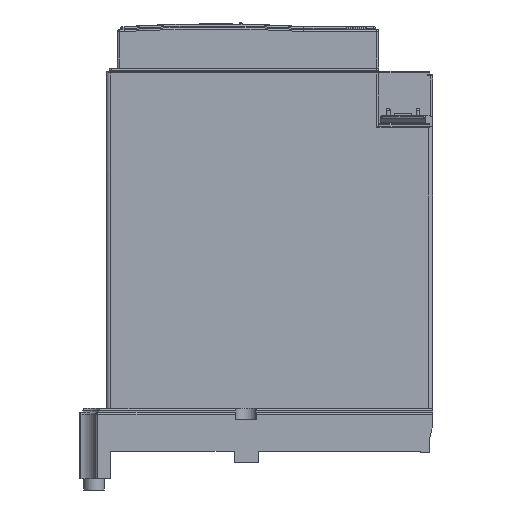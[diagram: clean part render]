
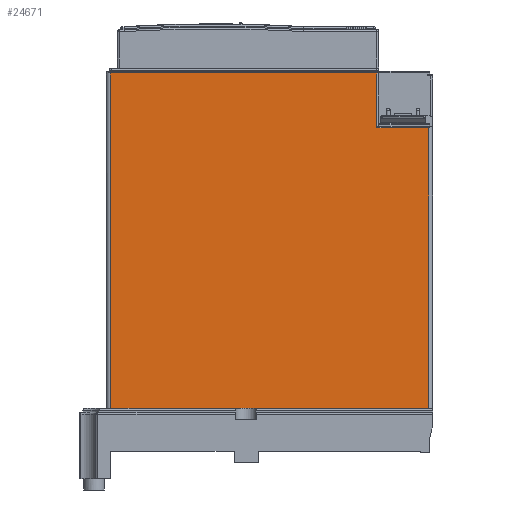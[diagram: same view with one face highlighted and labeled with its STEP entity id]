
A CAD part, left-side view. The second image highlights one B-rep face of the part: STEP entity #24671.
In plain terms, the highlighted planar face has unit normal (-1, 0, 0) as drawn and (0, 0, 1) by its records, which use the part's own axes.
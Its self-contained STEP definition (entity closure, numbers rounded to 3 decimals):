
#5814 = PLANE ( 'NONE',  #64096 ) ;
#6406 = VERTEX_POINT ( 'NONE', #95040 ) ;
#7845 = CARTESIAN_POINT ( 'NONE',  ( -43.5, 0., 45. ) ) ;
#9758 = CARTESIAN_POINT ( 'NONE',  ( 28.5, 90.5, 45. ) ) ;
#9953 = ORIENTED_EDGE ( 'NONE', *, *, #28193, .F. ) ;
#10086 = VECTOR ( 'NONE', #66982, 1000. ) ;
#13802 = CARTESIAN_POINT ( 'NONE',  ( 42.5, 75.7, 45. ) ) ;
#16493 = ORIENTED_EDGE ( 'NONE', *, *, #59317, .F. ) ;
#18647 = VECTOR ( 'NONE', #27629, 1000. ) ;
#20730 = CARTESIAN_POINT ( 'NONE',  ( -43.5, 90.5, 45. ) ) ;
#22206 = LINE ( 'NONE', #20730, #91930 ) ;
#22701 = DIRECTION ( 'NONE',  ( 1., 0., 0. ) ) ;
#22728 = EDGE_LOOP ( 'NONE', ( #45250, #77690, #9953, #67589, #16493, #57442 ) ) ;
#23105 = DIRECTION ( 'NONE',  ( 1., 0., 0. ) ) ;
#24671 = ADVANCED_FACE ( 'NONE', ( #45435 ), #5814, .F. ) ;
#27336 = CARTESIAN_POINT ( 'NONE',  ( -43.5, 90.5, 45. ) ) ;
#27629 = DIRECTION ( 'NONE',  ( 0., 1., 0. ) ) ;
#28193 = EDGE_CURVE ( 'NONE', #6406, #60880, #67474, .T. ) ;
#31282 = VERTEX_POINT ( 'NONE', #74984 ) ;
#36289 = VERTEX_POINT ( 'NONE', #97071 ) ;
#38477 = DIRECTION ( 'NONE',  ( 1., 0., 0. ) ) ;
#43500 = VECTOR ( 'NONE', #82657, 1000. ) ;
#45250 = ORIENTED_EDGE ( 'NONE', *, *, #80005, .F. ) ;
#45435 = FACE_OUTER_BOUND ( 'NONE', #22728, .T. ) ;
#45919 = DIRECTION ( 'NONE',  ( 0., 0., -1. ) ) ;
#51378 = EDGE_CURVE ( 'NONE', #31282, #60880, #54488, .T. ) ;
#51967 = CARTESIAN_POINT ( 'NONE',  ( -44.5, 99., 45. ) ) ;
#54488 = LINE ( 'NONE', #7845, #81868 ) ;
#54862 = EDGE_CURVE ( 'NONE', #36289, #6406, #68760, .T. ) ;
#57442 = ORIENTED_EDGE ( 'NONE', *, *, #61754, .F. ) ;
#58078 = LINE ( 'NONE', #73160, #43500 ) ;
#59317 = EDGE_CURVE ( 'NONE', #95062, #36289, #58078, .T. ) ;
#60880 = VERTEX_POINT ( 'NONE', #73644 ) ;
#61754 = EDGE_CURVE ( 'NONE', #73190, #95062, #22206, .T. ) ;
#64096 = AXIS2_PLACEMENT_3D ( 'NONE', #51967, #45919, #76045 ) ;
#65750 = CARTESIAN_POINT ( 'NONE',  ( -43.5, 0., 45. ) ) ;
#66982 = DIRECTION ( 'NONE',  ( 0., -1., 0. ) ) ;
#67474 = LINE ( 'NONE', #13802, #10086 ) ;
#67589 = ORIENTED_EDGE ( 'NONE', *, *, #54862, .F. ) ;
#68760 = LINE ( 'NONE', #83317, #85502 ) ;
#73160 = CARTESIAN_POINT ( 'NONE',  ( 28.5, 90.5, 45. ) ) ;
#73190 = VERTEX_POINT ( 'NONE', #27336 ) ;
#73644 = CARTESIAN_POINT ( 'NONE',  ( 42.5, 0., 45. ) ) ;
#74760 = LINE ( 'NONE', #65750, #18647 ) ;
#74984 = CARTESIAN_POINT ( 'NONE',  ( -43.5, 0., 45. ) ) ;
#76045 = DIRECTION ( 'NONE',  ( 0., -1., 0. ) ) ;
#77690 = ORIENTED_EDGE ( 'NONE', *, *, #51378, .T. ) ;
#80005 = EDGE_CURVE ( 'NONE', #31282, #73190, #74760, .T. ) ;
#81868 = VECTOR ( 'NONE', #38477, 1000. ) ;
#82657 = DIRECTION ( 'NONE',  ( 0., -1., 0. ) ) ;
#83317 = CARTESIAN_POINT ( 'NONE',  ( 28.5, 75.7, 45. ) ) ;
#85502 = VECTOR ( 'NONE', #23105, 1000. ) ;
#91930 = VECTOR ( 'NONE', #22701, 1000. ) ;
#95040 = CARTESIAN_POINT ( 'NONE',  ( 42.5, 75.7, 45. ) ) ;
#95062 = VERTEX_POINT ( 'NONE', #9758 ) ;
#97071 = CARTESIAN_POINT ( 'NONE',  ( 28.5, 75.7, 45. ) ) ;
